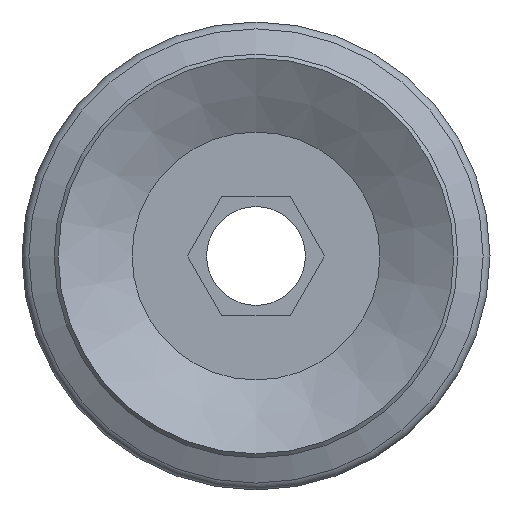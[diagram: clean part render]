
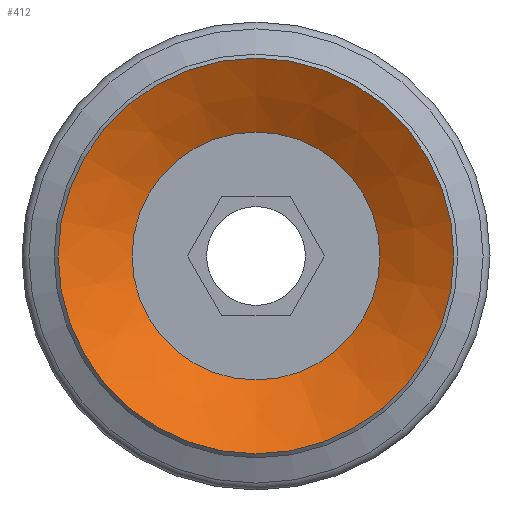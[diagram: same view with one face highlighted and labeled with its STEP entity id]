
A CAD part, front view. The second image highlights one B-rep face of the part: STEP entity #412.
In plain terms, the highlighted conical face has half-angle 60 degrees and reference radius 3.133 mm.
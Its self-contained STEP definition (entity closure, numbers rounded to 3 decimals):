
#412=ADVANCED_FACE('',(#611,#612),#613,.F.);
#611=FACE_BOUND('',#849,.T.);
#612=FACE_OUTER_BOUND('',#850,.T.);
#613=CONICAL_SURFACE('',#851,3.133,1.047);
#849=EDGE_LOOP('',(#1398));
#850=EDGE_LOOP('',(#1399));
#851=AXIS2_PLACEMENT_3D('',#1400,#1401,#1402);
#1398=ORIENTED_EDGE('',*,*,#1633,.F.);
#1399=ORIENTED_EDGE('',*,*,#1634,.T.);
#1400=CARTESIAN_POINT('',(0.0,7.659,0.));
#1401=DIRECTION('',(-0.0,-1.0,0.));
#1402=DIRECTION('',(0.0,0.,-1.0));
#1633=EDGE_CURVE('',#1881,#1881,#1882,.T.);
#1634=EDGE_CURVE('',#1883,#1883,#1884,.T.);
#1881=VERTEX_POINT('',#2527);
#1882=CIRCLE('',#2528,3.133);
#1883=VERTEX_POINT('',#2529);
#1884=CIRCLE('',#2530,5.0);
#2527=CARTESIAN_POINT('',(0.0,7.659,-3.133));
#2528=AXIS2_PLACEMENT_3D('',#2756,#2757,#2758);
#2529=CARTESIAN_POINT('',(0.0,6.581,-5.0));
#2530=AXIS2_PLACEMENT_3D('',#2759,#2760,#2761);
#2756=CARTESIAN_POINT('',(0.0,7.659,0.));
#2757=DIRECTION('',(0.0,-1.0,0.));
#2758=DIRECTION('',(0.0,0.,-1.0));
#2759=CARTESIAN_POINT('',(0.0,6.581,0.0));
#2760=DIRECTION('',(0.0,-1.0,0.));
#2761=DIRECTION('',(0.0,0.,-1.0));
